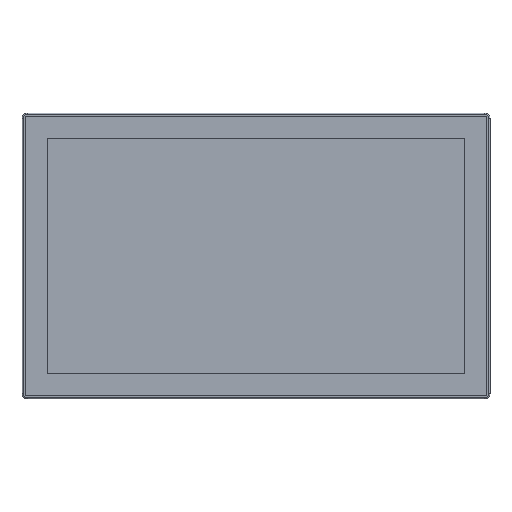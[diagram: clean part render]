
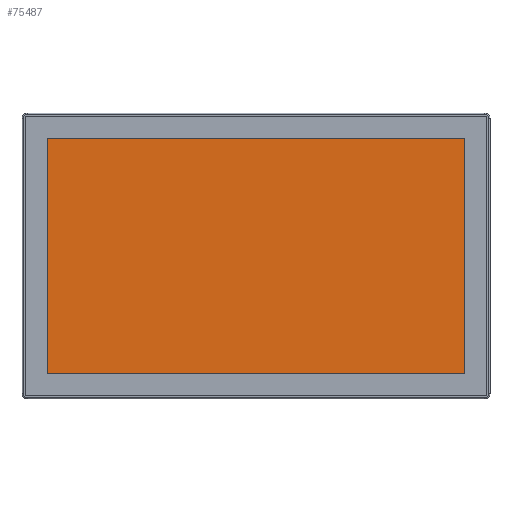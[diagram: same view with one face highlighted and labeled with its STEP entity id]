
A CAD part, top view. The second image highlights one B-rep face of the part: STEP entity #75487.
In plain terms, the highlighted planar face has unit normal (0, 0, 1).
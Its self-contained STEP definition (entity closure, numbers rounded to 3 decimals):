
#943 = CARTESIAN_POINT ( 'NONE',  ( -205.08, 115.62, -0.05 ) ) ;
#5837 = DIRECTION ( 'NONE',  ( -1., 0., 0. ) ) ;
#6686 = EDGE_CURVE ( 'NONE', #28435, #25144, #18347, .T. ) ;
#7158 = DIRECTION ( 'NONE',  ( 1., 0., 0. ) ) ;
#9711 = ORIENTED_EDGE ( 'NONE', *, *, #12428, .T. ) ;
#9833 = EDGE_CURVE ( 'NONE', #25144, #53714, #49432, .T. ) ;
#12318 = PLANE ( 'NONE',  #52362 ) ;
#12428 = EDGE_CURVE ( 'NONE', #41173, #28435, #15976, .T. ) ;
#15519 = CARTESIAN_POINT ( 'NONE',  ( 205.08, -115.62, -0.05 ) ) ;
#15976 = LINE ( 'NONE', #15519, #59727 ) ;
#18347 = LINE ( 'NONE', #19252, #48339 ) ;
#19252 = CARTESIAN_POINT ( 'NONE',  ( 205.08, 115.62, -0.05 ) ) ;
#25144 = VERTEX_POINT ( 'NONE', #41503 ) ;
#28051 = EDGE_LOOP ( 'NONE', ( #60048, #60952, #9711, #74935 ) ) ;
#28435 = VERTEX_POINT ( 'NONE', #81769 ) ;
#30767 = DIRECTION ( 'NONE',  ( 0., 1., 0. ) ) ;
#34181 = LINE ( 'NONE', #82176, #36278 ) ;
#34511 = EDGE_CURVE ( 'NONE', #53714, #41173, #34181, .T. ) ;
#36278 = VECTOR ( 'NONE', #39302, 1000. ) ;
#39302 = DIRECTION ( 'NONE',  ( 1., 0., 0. ) ) ;
#41173 = VERTEX_POINT ( 'NONE', #86400 ) ;
#41503 = CARTESIAN_POINT ( 'NONE',  ( -205.08, 115.62, -0.05 ) ) ;
#44307 = DIRECTION ( 'NONE',  ( 0., -1., 0. ) ) ;
#48331 = FACE_OUTER_BOUND ( 'NONE', #28051, .T. ) ;
#48339 = VECTOR ( 'NONE', #5837, 1000. ) ;
#49247 = CARTESIAN_POINT ( 'NONE',  ( 0., 0., -0.05 ) ) ;
#49432 = LINE ( 'NONE', #943, #86951 ) ;
#52362 = AXIS2_PLACEMENT_3D ( 'NONE', #49247, #78290, #7158 ) ;
#53714 = VERTEX_POINT ( 'NONE', #87065 ) ;
#59727 = VECTOR ( 'NONE', #30767, 1000. ) ;
#60048 = ORIENTED_EDGE ( 'NONE', *, *, #9833, .T. ) ;
#60952 = ORIENTED_EDGE ( 'NONE', *, *, #34511, .T. ) ;
#74935 = ORIENTED_EDGE ( 'NONE', *, *, #6686, .T. ) ;
#75487 = ADVANCED_FACE ( 'NONE', ( #48331 ), #12318, .T. ) ;
#78290 = DIRECTION ( 'NONE',  ( 0., 0., 1. ) ) ;
#81769 = CARTESIAN_POINT ( 'NONE',  ( 205.08, 115.62, -0.05 ) ) ;
#82176 = CARTESIAN_POINT ( 'NONE',  ( -205.08, -115.62, -0.05 ) ) ;
#86400 = CARTESIAN_POINT ( 'NONE',  ( 205.08, -115.62, -0.05 ) ) ;
#86951 = VECTOR ( 'NONE', #44307, 1000. ) ;
#87065 = CARTESIAN_POINT ( 'NONE',  ( -205.08, -115.62, -0.05 ) ) ;
